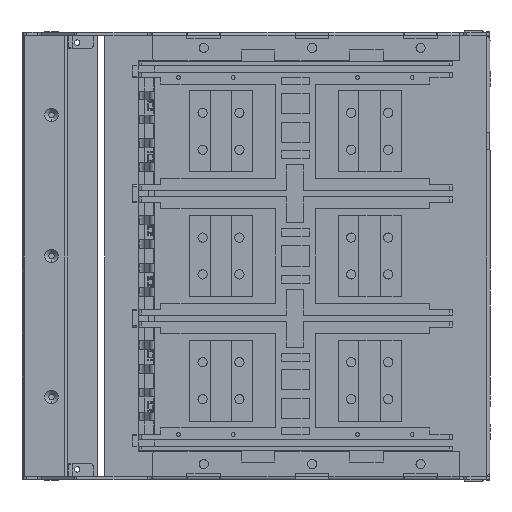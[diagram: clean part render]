
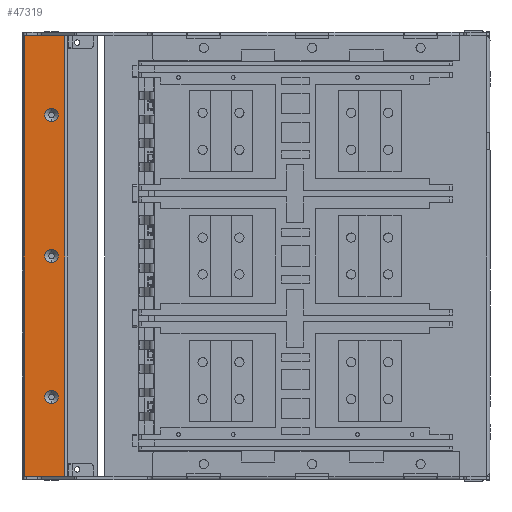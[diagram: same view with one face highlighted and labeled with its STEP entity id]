
A CAD part, left-side view. The second image highlights one B-rep face of the part: STEP entity #47319.
In plain terms, the highlighted planar face has unit normal (-1, 0, 0).
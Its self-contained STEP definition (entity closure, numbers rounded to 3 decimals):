
#1533 = CARTESIAN_POINT ( 'NONE',  ( 294.756, 579.413, 234.188 ) ) ;
#1989 = CIRCLE ( 'NONE', #108471, 6.1 ) ;
#7779 = CARTESIAN_POINT ( 'NONE',  ( 294.756, 591.613, -105.212 ) ) ;
#8071 = CARTESIAN_POINT ( 'NONE',  ( 294.756, 591.613, 160.888 ) ) ;
#9574 = LINE ( 'NONE', #133289, #176687 ) ;
#9739 = VERTEX_POINT ( 'NONE', #39413 ) ;
#9965 = AXIS2_PLACEMENT_3D ( 'NONE', #84353, #12726, #111826 ) ;
#10350 = DIRECTION ( 'NONE',  ( 0., 0., -1. ) ) ;
#11791 = LINE ( 'NONE', #1533, #38668 ) ;
#12726 = DIRECTION ( 'NONE',  ( 1., 0., 0. ) ) ;
#15511 = CARTESIAN_POINT ( 'NONE',  ( 294.756, 591.613, 24.788 ) ) ;
#19527 = ORIENTED_EDGE ( 'NONE', *, *, #98194, .T. ) ;
#19749 = DIRECTION ( 'NONE',  ( 1., 0., 0. ) ) ;
#20170 = VERTEX_POINT ( 'NONE', #123452 ) ;
#20602 = EDGE_CURVE ( 'NONE', #180158, #9739, #24477, .T. ) ;
#21386 = ORIENTED_EDGE ( 'NONE', *, *, #180989, .T. ) ;
#24477 = LINE ( 'NONE', #56113, #95756 ) ;
#26151 = CARTESIAN_POINT ( 'NONE',  ( 294.756, 591.613, -99.112 ) ) ;
#27194 = AXIS2_PLACEMENT_3D ( 'NONE', #26151, #167661, #54779 ) ;
#28955 = ORIENTED_EDGE ( 'NONE', *, *, #20602, .T. ) ;
#29356 = FACE_BOUND ( 'NONE', #149077, .T. ) ;
#33149 = VERTEX_POINT ( 'NONE', #7779 ) ;
#33970 = VERTEX_POINT ( 'NONE', #129726 ) ;
#34649 = AXIS2_PLACEMENT_3D ( 'NONE', #83243, #125009, #10350 ) ;
#38507 = CARTESIAN_POINT ( 'NONE',  ( 294.756, 579.413, 234.188 ) ) ;
#38668 = VECTOR ( 'NONE', #58141, 1000. ) ;
#38837 = VERTEX_POINT ( 'NONE', #53217 ) ;
#39413 = CARTESIAN_POINT ( 'NONE',  ( 294.756, 579.413, -172.412 ) ) ;
#47319 = ADVANCED_FACE ( 'NONE', ( #87209, #29356, #122829, #91453 ), #160755, .F. ) ;
#49674 = ORIENTED_EDGE ( 'NONE', *, *, #63462, .T. ) ;
#53217 = CARTESIAN_POINT ( 'NONE',  ( 294.756, 591.613, -93.012 ) ) ;
#54779 = DIRECTION ( 'NONE',  ( 0., 0., -1. ) ) ;
#54868 = CIRCLE ( 'NONE', #57172, 6.1 ) ;
#56113 = CARTESIAN_POINT ( 'NONE',  ( 294.756, 617.613, -172.412 ) ) ;
#56234 = LINE ( 'NONE', #66294, #161199 ) ;
#57172 = AXIS2_PLACEMENT_3D ( 'NONE', #8071, #108373, #177507 ) ;
#58141 = DIRECTION ( 'NONE',  ( 0., 0., 1. ) ) ;
#61474 = CARTESIAN_POINT ( 'NONE',  ( 294.756, 617.613, 234.188 ) ) ;
#63462 = EDGE_CURVE ( 'NONE', #20170, #128117, #106974, .T. ) ;
#64995 = ORIENTED_EDGE ( 'NONE', *, *, #96589, .T. ) ;
#66294 = CARTESIAN_POINT ( 'NONE',  ( 294.756, 617.613, 234.188 ) ) ;
#69086 = CIRCLE ( 'NONE', #9965, 6.1 ) ;
#75866 = DIRECTION ( 'NONE',  ( 0., 1., 0. ) ) ;
#77838 = CARTESIAN_POINT ( 'NONE',  ( 294.756, 616.613, -172.412 ) ) ;
#82986 = DIRECTION ( 'NONE',  ( 0., 0., -1. ) ) ;
#83243 = CARTESIAN_POINT ( 'NONE',  ( 294.756, 591.613, 160.888 ) ) ;
#83533 = ORIENTED_EDGE ( 'NONE', *, *, #158907, .T. ) ;
#84353 = CARTESIAN_POINT ( 'NONE',  ( 294.756, 591.613, -99.112 ) ) ;
#85604 = DIRECTION ( 'NONE',  ( 1., 0., 0. ) ) ;
#87209 = FACE_OUTER_BOUND ( 'NONE', #117460, .T. ) ;
#91453 = FACE_BOUND ( 'NONE', #128451, .T. ) ;
#92552 = AXIS2_PLACEMENT_3D ( 'NONE', #61474, #19749, #75866 ) ;
#93653 = ORIENTED_EDGE ( 'NONE', *, *, #180137, .T. ) ;
#94510 = VERTEX_POINT ( 'NONE', #146868 ) ;
#95095 = EDGE_LOOP ( 'NONE', ( #83533, #21386 ) ) ;
#95730 = EDGE_CURVE ( 'NONE', #128117, #20170, #54868, .T. ) ;
#95756 = VECTOR ( 'NONE', #157134, 1000. ) ;
#96589 = EDGE_CURVE ( 'NONE', #9739, #172345, #11791, .T. ) ;
#98194 = EDGE_CURVE ( 'NONE', #33149, #38837, #69086, .T. ) ;
#102926 = ORIENTED_EDGE ( 'NONE', *, *, #109130, .T. ) ;
#106974 = CIRCLE ( 'NONE', #34649, 6.1 ) ;
#108373 = DIRECTION ( 'NONE',  ( 1., 0., 0. ) ) ;
#108471 = AXIS2_PLACEMENT_3D ( 'NONE', #176010, #176605, #163059 ) ;
#109130 = EDGE_CURVE ( 'NONE', #38837, #33149, #124258, .T. ) ;
#111826 = DIRECTION ( 'NONE',  ( 0., 0., -1. ) ) ;
#117460 = EDGE_LOOP ( 'NONE', ( #164284, #93653, #28955, #64995 ) ) ;
#120199 = DIRECTION ( 'NONE',  ( 0., 0., -1. ) ) ;
#122500 = CARTESIAN_POINT ( 'NONE',  ( 294.756, 591.613, 30.888 ) ) ;
#122829 = FACE_BOUND ( 'NONE', #95095, .T. ) ;
#123452 = CARTESIAN_POINT ( 'NONE',  ( 294.756, 591.613, 166.988 ) ) ;
#124258 = CIRCLE ( 'NONE', #27194, 6.1 ) ;
#125009 = DIRECTION ( 'NONE',  ( 1., 0., 0. ) ) ;
#128117 = VERTEX_POINT ( 'NONE', #181649 ) ;
#128451 = EDGE_LOOP ( 'NONE', ( #102926, #19527 ) ) ;
#129726 = CARTESIAN_POINT ( 'NONE',  ( 294.756, 616.613, 234.188 ) ) ;
#131527 = AXIS2_PLACEMENT_3D ( 'NONE', #122500, #85604, #82986 ) ;
#133289 = CARTESIAN_POINT ( 'NONE',  ( 294.756, 616.613, 234.188 ) ) ;
#138015 = DIRECTION ( 'NONE',  ( 0., -1., 0. ) ) ;
#142464 = CIRCLE ( 'NONE', #131527, 6.1 ) ;
#146868 = CARTESIAN_POINT ( 'NONE',  ( 294.756, 591.613, 36.988 ) ) ;
#148092 = ORIENTED_EDGE ( 'NONE', *, *, #95730, .T. ) ;
#149077 = EDGE_LOOP ( 'NONE', ( #49674, #148092 ) ) ;
#157134 = DIRECTION ( 'NONE',  ( 0., -1., 0. ) ) ;
#158007 = EDGE_CURVE ( 'NONE', #33970, #172345, #56234, .T. ) ;
#158907 = EDGE_CURVE ( 'NONE', #94510, #169239, #1989, .T. ) ;
#160755 = PLANE ( 'NONE',  #92552 ) ;
#161199 = VECTOR ( 'NONE', #138015, 1000. ) ;
#163059 = DIRECTION ( 'NONE',  ( 0., 0., -1. ) ) ;
#164284 = ORIENTED_EDGE ( 'NONE', *, *, #158007, .F. ) ;
#167661 = DIRECTION ( 'NONE',  ( 1., 0., 0. ) ) ;
#169239 = VERTEX_POINT ( 'NONE', #15511 ) ;
#172345 = VERTEX_POINT ( 'NONE', #38507 ) ;
#176010 = CARTESIAN_POINT ( 'NONE',  ( 294.756, 591.613, 30.888 ) ) ;
#176605 = DIRECTION ( 'NONE',  ( 1., 0., 0. ) ) ;
#176687 = VECTOR ( 'NONE', #120199, 1000. ) ;
#177507 = DIRECTION ( 'NONE',  ( 0., 0., -1. ) ) ;
#180137 = EDGE_CURVE ( 'NONE', #33970, #180158, #9574, .T. ) ;
#180158 = VERTEX_POINT ( 'NONE', #77838 ) ;
#180989 = EDGE_CURVE ( 'NONE', #169239, #94510, #142464, .T. ) ;
#181649 = CARTESIAN_POINT ( 'NONE',  ( 294.756, 591.613, 154.788 ) ) ;
